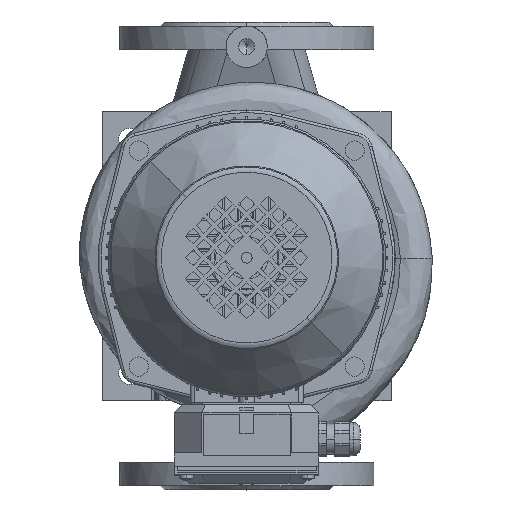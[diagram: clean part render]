
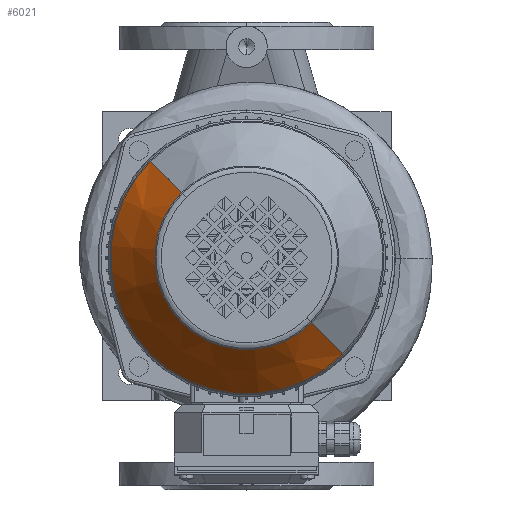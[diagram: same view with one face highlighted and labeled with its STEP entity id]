
A CAD part, top view. The second image highlights one B-rep face of the part: STEP entity #6021.
In plain terms, the highlighted conical face has half-angle 38.66 degrees and reference radius 65 mm.
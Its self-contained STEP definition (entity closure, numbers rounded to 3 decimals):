
#6021=ADVANCED_FACE('NONE',(#14377),#14378,.T.);
#14377=FACE_OUTER_BOUND('',#29248,.T.);
#14378=CONICAL_SURFACE('',#29249,65.0,0.675);
#29248=EDGE_LOOP('',(#45890,#45891,#45892,#45893));
#29249=AXIS2_PLACEMENT_3D('',#45894,#45895,#45896);
#45890=ORIENTED_EDGE('',*,*,#53559,.T.);
#45891=ORIENTED_EDGE('',*,*,#53610,.T.);
#45892=ORIENTED_EDGE('',*,*,#53561,.T.);
#45893=ORIENTED_EDGE('',*,*,#53612,.T.);
#45894=CARTESIAN_POINT('',(0.0,110.0,0.0));
#45895=DIRECTION('',(-0.0,-1.0,-0.0));
#45896=DIRECTION('',(0.0,0.0,-1.0));
#53559=EDGE_CURVE('',#65727,#65728,#65729,.T.);
#53561=EDGE_CURVE('',#65732,#65730,#65733,.T.);
#53610=EDGE_CURVE('NONE',#65728,#65732,#65814,.T.);
#53612=EDGE_CURVE('NONE',#65730,#65727,#65816,.T.);
#65727=VERTEX_POINT('',#87925);
#65728=VERTEX_POINT('NONE',#87926);
#65729=LINE('',#87927,#87928);
#65730=VERTEX_POINT('NONE',#87929);
#65732=VERTEX_POINT('',#87931);
#65733=LINE('',#87932,#87933);
#65814=CIRCLE('',#88282,99.685);
#65816=CIRCLE('',#88284,66.801);
#87925=CARTESIAN_POINT('',(0.,107.748,-66.801));
#87926=CARTESIAN_POINT('',(0.0,66.643,-99.685));
#87927=CARTESIAN_POINT('',(0.,110.0,-65.0));
#87928=VECTOR('',#97759,1.0);
#87929=CARTESIAN_POINT('',(0.,107.748,66.801));
#87931=CARTESIAN_POINT('',(0.,66.643,99.685));
#87932=CARTESIAN_POINT('',(0.,110.0,65.0));
#87933=VECTOR('',#97763,1.0);
#88282=AXIS2_PLACEMENT_3D('',#97840,#97841,#97842);
#88284=AXIS2_PLACEMENT_3D('',#97846,#97847,#97848);
#97759=DIRECTION('',(0.,-0.781,-0.625));
#97763=DIRECTION('',(0.,0.781,-0.625));
#97840=CARTESIAN_POINT('',(0.0,66.643,0.0));
#97841=DIRECTION('',(-0.0,1.0,0.0));
#97842=DIRECTION('',(0.0,0.0,1.0));
#97846=CARTESIAN_POINT('',(0.0,107.748,0.0));
#97847=DIRECTION('',(0.0,-1.0,0.0));
#97848=DIRECTION('',(0.0,0.0,1.0));
